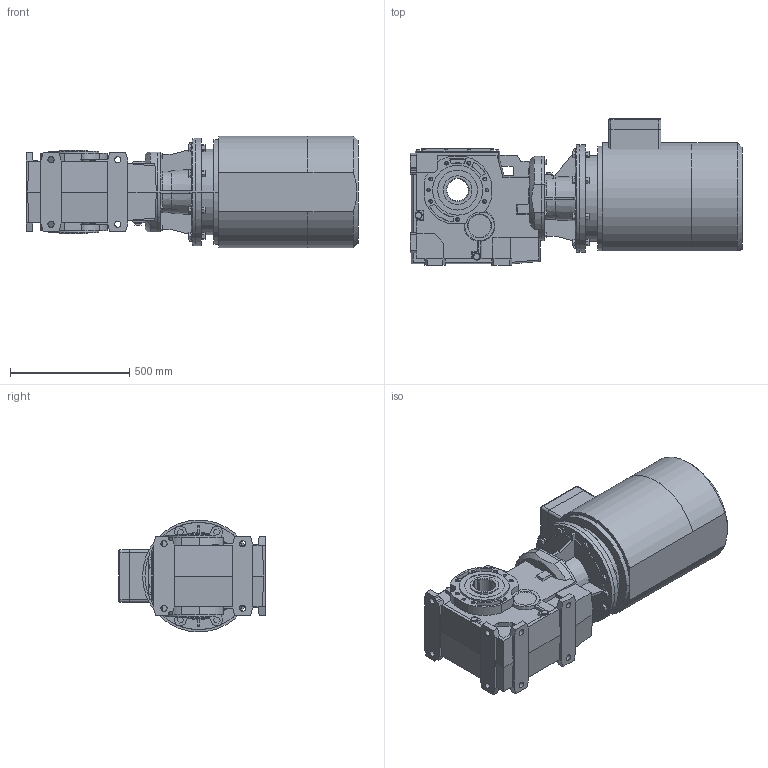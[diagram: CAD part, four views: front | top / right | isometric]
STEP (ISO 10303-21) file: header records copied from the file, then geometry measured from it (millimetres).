
FILE_DESCRIPTION( ( '' ), '1' );
FILE_NAME( '//expscmdclustefs.cadenas.external/client_exchange/iodir/jobs/output/wkb50801820_no0/STEP/B153UC10_49225_B590000000T225M1_2_03.stp', '2012-11-06T01:34:48', ( '' ), ( '' ), ' ', ' ', ' ' );
FILE_SCHEMA( ( 'CONFIG_CONTROL_DESIGN' ) );
Length unit declared in the file: millimetre
Products named in the file (7): 1; 2; 3; 4; 5; 6; 7
Bounding box: 1393.5 x 615 x 469.99 mm (x, y, z)
Volume: 197976584.4 mm3; surface area: 4727059.3 mm2
Topology: 7 solids, 7 shells, 1024 faces, 2641 edges, 1707 vertices
Faces by surface type: plane 646, cylinder 255, cone 120, torus 3
Entity records: 31194 total; most frequent: CARTESIAN_POINT 5731, DIRECTION 5238, ORIENTED_EDGE 5210, EDGE_CURVE 2605, LINE 1786, VECTOR 1786, AXIS2_PLACEMENT_3D 1726, VERTEX_POINT 1707
